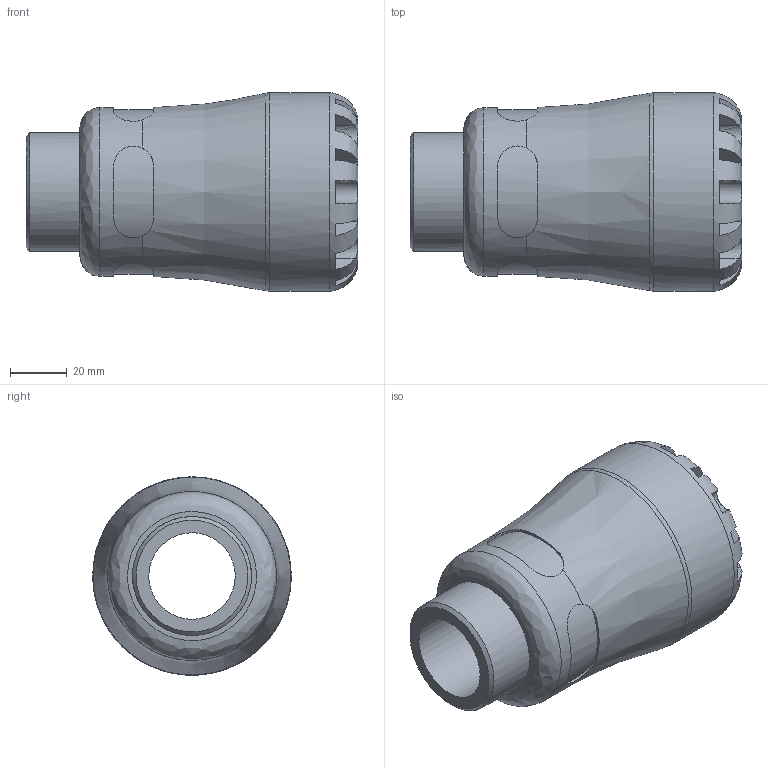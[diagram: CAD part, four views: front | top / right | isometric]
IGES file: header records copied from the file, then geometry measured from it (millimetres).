
Global section: file name: 157200040013; native system: Autodesk Inventor 2019; preprocessor: unknown; author: KIM; date: 20231021.230238; units: millimetre
Bounding box: 117 x 70 x 69.97 mm (x, y, z)
Volume: 210101.7 mm3; surface area: 41533.9 mm2
Topology: 1 solids, 1 shells, 99 faces, 269 edges, 174 vertices
Faces by surface type: bspline 99
